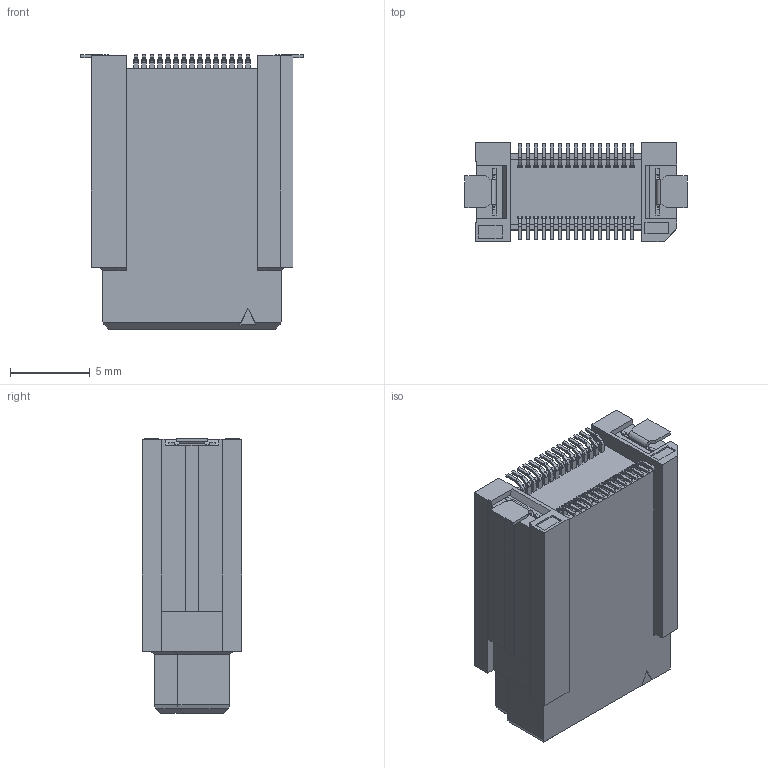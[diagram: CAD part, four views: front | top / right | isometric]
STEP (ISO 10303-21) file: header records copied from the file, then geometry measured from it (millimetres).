
FILE_DESCRIPTION(('Creo Elements/Direct Modeling STEP Export'),'2;1');
FILE_NAME('P3D464_DT10-030S-19-T.stp','2022-03-16T11:08:04',(''),(''),'Creo Elements/Direct Modeling STEP processor for AP214 (Solid Model)','Creo Elements/Direct Modeling 20.4A 18-Oct-2021 (C) Parametric Technology GmbH','');
FILE_SCHEMA(('AUTOMOTIVE_DESIGN { 1 0 10303 214 1 1 1 1 }'));
Length unit declared in the file: millimetre
Products named in the file (2): DT10-030S-19-T
Assembly tree (1 placements, depth 2):
  DT10-030S-19-T
    DT10-030S-19-T
Bounding box: 13.9 x 6.2 x 17.18 mm (x, y, z)
Volume: 985.3 mm3; surface area: 934.1 mm2
Topology: 1 solids, 1 shells, 1033 faces, 2910 edges, 1916 vertices
Faces by surface type: plane 841, cylinder 192
Entity records: 32904 total; most frequent: ORIENTED_EDGE 5820, CARTESIAN_POINT 5798, DIRECTION 5360, EDGE_CURVE 2910, VECTOR 2404, LINE 2404, VERTEX_POINT 1916, AXIS2_PLACEMENT_3D 1478
